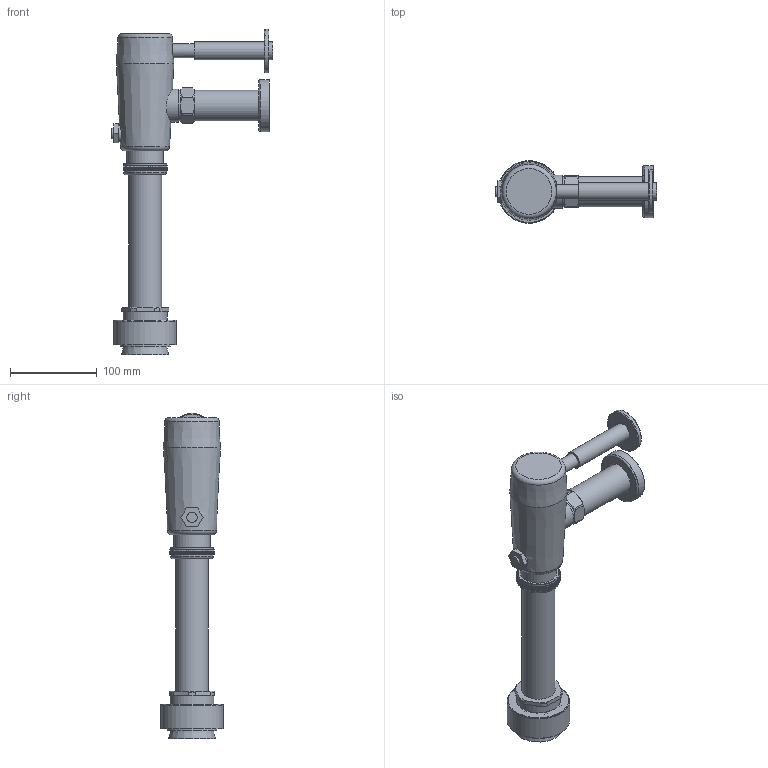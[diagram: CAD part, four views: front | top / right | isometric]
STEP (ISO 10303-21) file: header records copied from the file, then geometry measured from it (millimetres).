
FILE_DESCRIPTION(/* description */ (''),/* implementation_level */ '2;1');
FILE_NAME(/* name */ 'C:\Comun\23034000.stp',/* time_stamp */ '2018-05-29T08:24:51-05:00',/* author */ ('jroman'),/* organization */ (''),/* preprocessor_version */ 'ST-DEVELOPER v17',/* originating_system */ 'Autodesk Inventor 2019',/* authorisation */ '');
FILE_SCHEMA (('AUTOMOTIVE_DESIGN { 1 0 10303 214 3 1 1 }'));
Length unit declared in the file: millimetre
Products named in the file (19): 23015000; IB07503; IS07040 _DIRECTA; BP04239; PART1; BE04276; IB07501; PVJ0434; ON00511; IP04510; AI04510; OL07500; AI04233; BP04241; BP04236; PVJ0194; OL07230; BF04182; PVJ0007
Assembly tree (19 placements, depth 2):
  23015000
    IB07503
    IS07040 _DIRECTA
    BP04239
    PART1
    BE04276
    IB07501
    PVJ0434
    ON00511
    IP04510
    AI04510
    OL07500
    PVJ0007  x2
    AI04233
    BP04241
    BP04236
    PVJ0194
    OL07230
    BF04182
Bounding box: 186 x 72 x 374.9 mm (x, y, z)
Volume: 542418.9 mm3; surface area: 213773.8 mm2
Topology: 19 solids, 19 shells, 850 faces, 2448 edges, 1660 vertices
Faces by surface type: plane 516, cylinder 283, cone 37, torus 14
Full cylindrical faces by diameter (mm): 12 x1, 15 x1, 16 x1, 17 x1, 20 x1, 20.5 x1, 21 x2, 21.8 x1, 24.5 x2, 25.8 x1, 26 x2, 26.4 x1, 27.5 x1, 30 x2, 31 x1, 31.376 x1, 32 x1, 33 x1, 34 x1, 34.5 x1, 35 x1, 35.6 x1, 36.6 x2, 38 x4, 38.5 x3, 39.5 x1, 42 x1, 43 x2, 45 x1, 45.2 x1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
Entity records: 29170 total; most frequent: CARTESIAN_POINT 5589, ORIENTED_EDGE 4874, DIRECTION 4825, EDGE_CURVE 2437, VERTEX_POINT 1652, LINE 1641, VECTOR 1641, AXIS2_PLACEMENT_3D 1592
